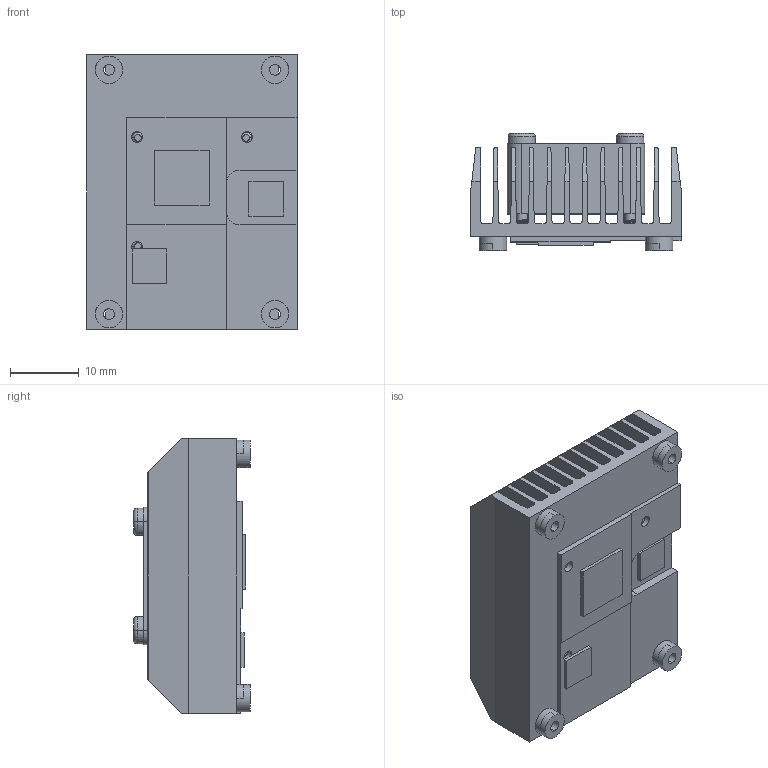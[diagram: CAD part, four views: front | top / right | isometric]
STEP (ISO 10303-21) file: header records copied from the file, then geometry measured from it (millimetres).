
FILE_DESCRIPTION((''),'2;1');
FILE_NAME('MYX-A2-00_ASM','2019-03-08T',('EmmaHsu'),(''),'PRO/ENGINEER BY PARAMETRIC TECHNOLOGY CORPORATION, 2016010','PRO/ENGINEER BY PARAMETRIC TECHNOLOGY CORPORATION, 2016010','');
FILE_SCHEMA(('AUTOMOTIVE_DESIGN { 1 0 10303 214 1 1 1 1 }'));
Length unit declared in the file: millimetre
Products named in the file (1): MYX-A2-00_ASM
Bounding box: 30.6 x 17 x 40 mm (x, y, z)
Volume: 2495.9 mm3; surface area: 12691 mm2
Topology: 2 solids, 3 shells, 404 faces, 1163 edges, 772 vertices
Faces by surface type: plane 210, cylinder 170, bspline 12, torus 6, cone 6
Entity records: 19573 total; most frequent: CARTESIAN_POINT 5741, ORIENTED_EDGE 2314, DIRECTION 1986, EDGE_CURVE 1163, PRESENTATION_STYLE_ASSIGNMENT 895, STYLED_ITEM 877, VERTEX_POINT 772, CURVE_STYLE 738
